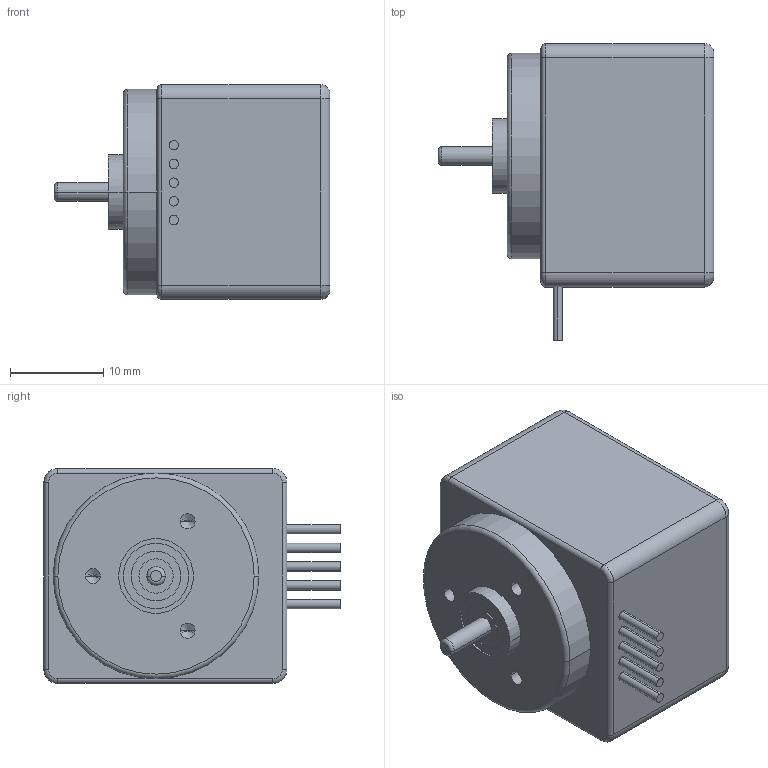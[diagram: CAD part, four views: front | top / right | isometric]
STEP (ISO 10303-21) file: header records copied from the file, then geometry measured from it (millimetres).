
FILE_DESCRIPTION((''),'2;1');
FILE_NAME('1003455','2021-03-26T14:48:43',('mmagvisi'),(''),'CREO PARAMETRIC BY PTC INC, 2020342','CREO PARAMETRIC BY PTC INC, 2020342','');
FILE_SCHEMA(('CONFIG_CONTROL_DESIGN','SHAPE_APPEARANCE_LAYERS_GROUPS'));
Length unit declared in the file: millimetre
Products named in the file (1): 1003455
Bounding box: 29.5 x 31.7 x 23 mm (x, y, z)
Volume: 12454.3 mm3; surface area: 3364.2 mm2
Topology: 1 solids, 1 shells, 76 faces, 164 edges, 97 vertices
Faces by surface type: cylinder 40, plane 18, torus 8, cone 6, bspline 4
Entity records: 2188 total; most frequent: DIRECTION 400, CARTESIAN_POINT 391, ORIENTED_EDGE 316, AXIS2_PLACEMENT_3D 170, EDGE_CURVE 158, CIRCLE 98, VERTEX_POINT 97, EDGE_LOOP 89
